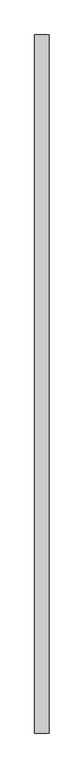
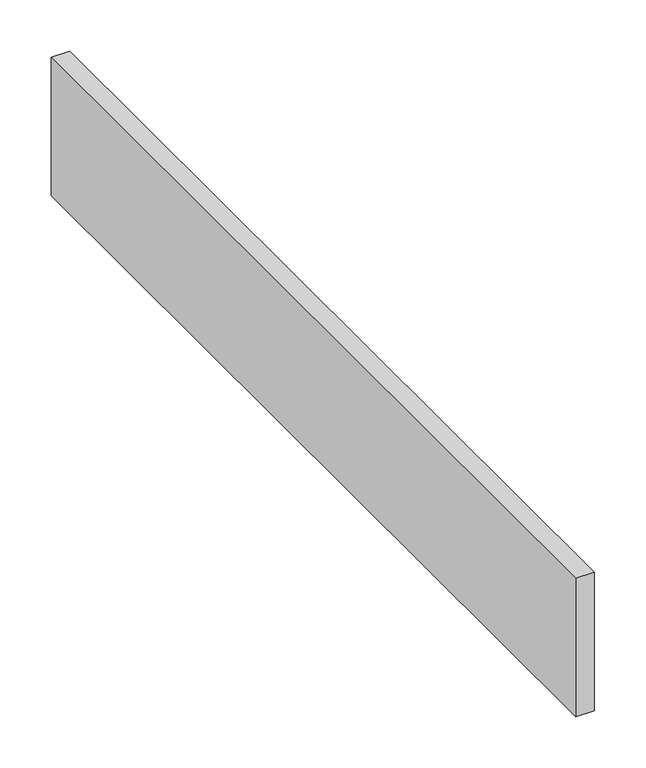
"""IFC4 building model written with IfcOpenShell, lengths in millimetres: duct fitting geometry, MEP_15.03 Injerto Conducte : Mínimo."""

import ifcopenshell
import ifcopenshell.guid

model = None  # the IFC model being written
_history = None  # IfcOwnerHistory: only IFC2X3 demands one
_inside = {}  # id of a spatial element -> (the spatial element, [elements in it])
_under = {}  # id of a project, library or spatial element -> (it, [spatial elements below it])
_declared = {}  # id of a project -> (the project, [libraries it declares])
_typed = {}  # id of a type object -> (the type object, [elements of that type])
_made_of = {}  # id of a material, layer set ... -> (it, [elements and type objects made of it])


def new_model(schema):
    """Start an empty IFC model of exactly this schema.

    Asked for "IFC4X3", IfcOpenShell would pick the latest addendum, in which some entities
    have other attributes; the version numbers below select the first issue.
    IFC2X3 requires an IfcOwnerHistory on every rooted entity: one is made here for all.
    """
    global model, _history
    if schema == "IFC4X3":
        model = ifcopenshell.file(schema_version=(4, 3, 0, 0))
    else:
        model = ifcopenshell.file(schema=schema)
    _inside.clear()
    _under.clear()
    _declared.clear()
    _typed.clear()
    _made_of.clear()
    _history = None
    if model.schema == "IFC2X3":
        org = make("IfcOrganization", Name="unknown")
        user = make(
            "IfcPersonAndOrganization",
            ThePerson=make("IfcPerson", FamilyName="unknown"),
            TheOrganization=org,
        )
        app = make(
            "IfcApplication",
            ApplicationDeveloper=org,
            Version="unknown",
            ApplicationFullName="unknown",
            ApplicationIdentifier="unknown",
        )
        _history = make(
            "IfcOwnerHistory",
            OwningUser=user,
            OwningApplication=app,
            ChangeAction="ADDED",
            CreationDate=0,
        )
    return model


def make(cls, **values):
    """One entity of the class cls with the attributes given. An attribute that is None is left unset."""
    return model.create_entity(
        cls, **{name: value for name, value in values.items() if value is not None}
    )


def rooted(cls, **values):
    """An entity with a GlobalId (a new one), such as an element, a storey or a relation."""
    return make(cls, GlobalId=ifcopenshell.guid.new(), OwnerHistory=_history, **values)


def si_unit(unit_type, name, prefix=None):
    """IfcSIUnit, for example si_unit("LENGTHUNIT", "METRE", prefix="MILLI")."""
    return make("IfcSIUnit", UnitType=unit_type, Prefix=prefix, Name=name)


def assignment(units):
    """IfcUnitAssignment: the units of a project."""
    return None if units is None else make("IfcUnitAssignment", Units=units)


def point(xyz):
    """IfcCartesianPoint."""
    return None if xyz is None else make("IfcCartesianPoint", Coordinates=xyz)


def direction(xyz):
    """IfcDirection."""
    return None if xyz is None else make("IfcDirection", DirectionRatios=xyz)


def frame(location, z_axis=None, x_axis=None):
    """IfcAxis2Placement3D, a coordinate frame: its origin and axes. An axis left out is left unset."""
    return make(
        "IfcAxis2Placement3D",
        Location=point(location),
        Axis=direction(z_axis),
        RefDirection=direction(x_axis),
    )


def origin():
    """The frame at (0, 0, 0) with its axes left unset."""
    return frame((0.0, 0.0, 0.0))


def place(relative_to, where):
    """IfcLocalPlacement: puts the frame where relative to a parent placement (None: the world)."""
    return make(
        "IfcLocalPlacement", PlacementRelTo=relative_to, RelativePlacement=where
    )


def context(
    kind, dimensions, precision=None, world=None, true_north=None, identifier=None
):
    """IfcGeometricRepresentationContext, for example the 3D "Model" context."""
    return make(
        "IfcGeometricRepresentationContext",
        ContextIdentifier=identifier,
        ContextType=kind,
        CoordinateSpaceDimension=dimensions,
        Precision=precision,
        WorldCoordinateSystem=world,
        TrueNorth=true_north,
    )


def project(units=None, contexts=None):
    """IfcProject with its units and contexts."""
    return rooted(
        "IfcProject",
        Name="project",
        RepresentationContexts=contexts,
        UnitsInContext=assignment(units),
    )


def spatial(cls, under=None, at=None, **own):
    """A site, building, storey or space (cls), placed at a placement, below another one or the project."""
    s = rooted(cls, ObjectPlacement=at, **own)
    if under is not None:
        _under.setdefault(under.id(), (under, []))[1].append(s)
    return s


def polyline(points):
    """IfcPolyline through the points."""
    return make("IfcPolyline", Points=[point(p) for p in points])


def outline(outer, holes=None, kind="AREA"):
    """IfcArbitraryClosedProfileDef: a profile drawn as a closed curve; with holes, ...WithVoids."""
    if holes is None:
        return make("IfcArbitraryClosedProfileDef", ProfileType=kind, OuterCurve=outer)
    return make(
        "IfcArbitraryProfileDefWithVoids",
        ProfileType=kind,
        OuterCurve=outer,
        InnerCurves=holes,
    )


def extrude(swept, where, along, depth):
    """IfcExtrudedAreaSolid: the profile swept, set in the frame where, extruded along a direction by depth."""
    return make(
        "IfcExtrudedAreaSolid",
        SweptArea=swept,
        Position=where,
        ExtrudedDirection=direction(along),
        Depth=depth,
    )


def shape(context_of_items, identifier, shape_type, items):
    """IfcShapeRepresentation: the items that make up one representation, for example the "Body"."""
    return make(
        "IfcShapeRepresentation",
        ContextOfItems=context_of_items,
        RepresentationIdentifier=identifier,
        RepresentationType=shape_type,
        Items=items,
    )


def source(mapping_origin, context_of_items, identifier, shape_type, items):
    """IfcRepresentationMap: a shape defined once, which mapped items show again and again."""
    return make(
        "IfcRepresentationMap",
        MappingOrigin=mapping_origin,
        MappedRepresentation=shape(context_of_items, identifier, shape_type, items),
    )


def transform(
    local_origin,
    x_axis=None,
    y_axis=None,
    z_axis=None,
    scale=None,
    scale2=None,
    scale3=None,
    uniform=True,
):
    """IfcCartesianTransformationOperator3D, or its non-uniform kind. x_axis, y_axis, z_axis: its Axis1, 2, 3."""
    if uniform:
        return make(
            "IfcCartesianTransformationOperator3D",
            Axis1=direction(x_axis),
            Axis2=direction(y_axis),
            LocalOrigin=point(local_origin),
            Scale=scale,
            Axis3=direction(z_axis),
        )
    return make(
        "IfcCartesianTransformationOperator3DnonUniform",
        Axis1=direction(x_axis),
        Axis2=direction(y_axis),
        LocalOrigin=point(local_origin),
        Scale=scale,
        Axis3=direction(z_axis),
        Scale2=scale2,
        Scale3=scale3,
    )


def mapped(mapping_source, mapping_target):
    """IfcMappedItem: shows the shape of a source again, moved by a transform."""
    return make(
        "IfcMappedItem", MappingSource=mapping_source, MappingTarget=mapping_target
    )


def made_of(thing, what):
    """Note that an element or type object is made of a material, layer set ...; save() writes the relation."""
    if what is not None:
        _made_of.setdefault(what.id(), (what, []))[1].append(thing)
    return thing


def element(
    cls,
    number,
    at=None,
    inside=None,
    cuts=None,
    type_object=None,
    material=None,
    context=None,
    identifier="Body",
    shape_type=None,
    held_by="IfcProductDefinitionShape",
    body=None,
    shapes=None,
    **own,
):
    """One element of the class cls, such as IfcWall. Its Tag is "e" and its number.

    at: its placement. inside: the storey or other place that contains it. cuts: it is an
    opening in that element (IfcRelVoidsElement). A single representation is given by context,
    identifier, shape_type and body (its items); several are given by shapes. held_by: the class
    of the entity that holds the representations. save() writes the other relations.
    """
    e = rooted(cls, Tag="e%d" % number, ObjectPlacement=at, **own)
    if body is not None:
        shapes = [shape(context, identifier, shape_type, body)]
    if shapes is not None:
        e.Representation = make(held_by, Representations=shapes)
    if inside is not None:
        _inside.setdefault(inside.id(), (inside, []))[1].append(e)
    if cuts is not None:
        rooted(
            "IfcRelVoidsElement", RelatingBuildingElement=cuts, RelatedOpeningElement=e
        )
    if type_object is not None:
        _typed.setdefault(type_object.id(), (type_object, []))[1].append(e)
    return made_of(e, material)


def aggregate(whole, parts):
    """IfcRelAggregates: a whole, such as a stair, and the parts it consists of."""
    return rooted("IfcRelAggregates", RelatingObject=whole, RelatedObjects=parts)


def save(model, path):
    """Write the relations noted so far, then the file.

    IfcRelAggregates (storeys below a building ...), IfcRelContainedInSpatialStructure (elements
    in a storey), IfcRelDefinesByType, IfcRelAssociatesMaterial and IfcRelDeclares: one each for
    every whole, place, type object, material and project.
    """
    for whole, parts in _under.values():
        aggregate(whole, parts)
    for where, things in _inside.values():
        rooted(
            "IfcRelContainedInSpatialStructure",
            RelatedElements=things,
            RelatingStructure=where,
        )
    for kind, things in _typed.values():
        rooted("IfcRelDefinesByType", RelatedObjects=things, RelatingType=kind)
    for what, things in _made_of.values():
        rooted("IfcRelAssociatesMaterial", RelatedObjects=things, RelatingMaterial=what)
    for by, libraries in _declared.values():
        rooted("IfcRelDeclares", RelatingContext=by, RelatedDefinitions=libraries)
    model.write(path)


def duct_fitting_770e8e42(model_context):
    return source(origin(), model_context, "Body", "SweptSolid", [
        extrude(outline(polyline([(-6.096, -512.5), (-6.096, 512.5), (15.0, 512.5), (15.0, -512.5), (-6.096, -512.5)])), frame((0.0, 0.0, -82.5), z_axis=(0.0, 0.0, 1.0), x_axis=(1.0, 0.0, 0.0)), (0.0, 0.0, 1.0), 165.0),
    ])


if __name__ == "__main__":
    model = new_model("IFC4")
    model_context = context("Model", 3, world=origin())
    ifc_project = project(units=[si_unit("LENGTHUNIT", "METRE", prefix="MILLI")], contexts=[model_context])
    site = spatial("IfcSite", under=ifc_project)
    building = spatial("IfcBuilding", under=site)
    placement = place(None, origin())
    duct_fitting_shape = duct_fitting_770e8e42(model_context)
    element("IfcDuctFitting", 1, ObjectType="MEP_15.03 Injerto Conducte : Mínimo", at=placement, inside=building, context=model_context, shape_type="MappedRepresentation", body=[
        mapped(duct_fitting_shape, transform((0.0, 0.0, 0.0), x_axis=(1.0, 0.0, 0.0), y_axis=(0.0, 1.0, 0.0), z_axis=(0.0, 0.0, 1.0))),
    ])
    save(model, "model.ifc")
